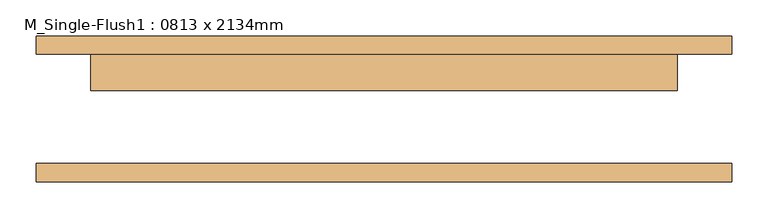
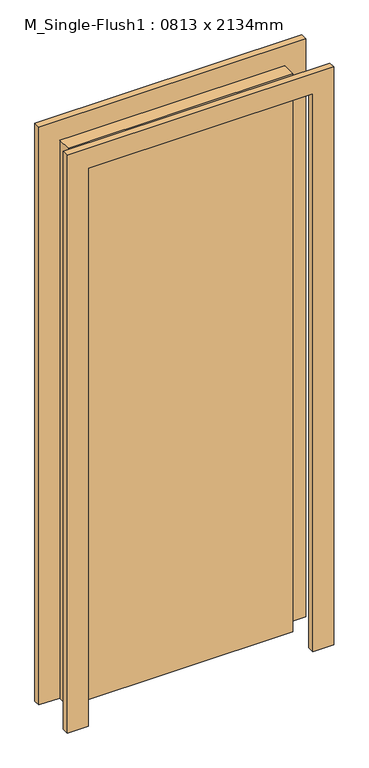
"""IFC4 building model written with IfcOpenShell, lengths in millimetres: door geometry, M_Single-Flush1 : 0813 x 2134mm."""

import ifcopenshell
import ifcopenshell.guid

model = None  # the IFC model being written
_history = None  # IfcOwnerHistory: only IFC2X3 demands one
_inside = {}  # id of a spatial element -> (the spatial element, [elements in it])
_under = {}  # id of a project, library or spatial element -> (it, [spatial elements below it])
_declared = {}  # id of a project -> (the project, [libraries it declares])
_typed = {}  # id of a type object -> (the type object, [elements of that type])
_made_of = {}  # id of a material, layer set ... -> (it, [elements and type objects made of it])


def new_model(schema):
    """Start an empty IFC model of exactly this schema.

    Asked for "IFC4X3", IfcOpenShell would pick the latest addendum, in which some entities
    have other attributes; the version numbers below select the first issue.
    IFC2X3 requires an IfcOwnerHistory on every rooted entity: one is made here for all.
    """
    global model, _history
    if schema == "IFC4X3":
        model = ifcopenshell.file(schema_version=(4, 3, 0, 0))
    else:
        model = ifcopenshell.file(schema=schema)
    _inside.clear()
    _under.clear()
    _declared.clear()
    _typed.clear()
    _made_of.clear()
    _history = None
    if model.schema == "IFC2X3":
        org = make("IfcOrganization", Name="unknown")
        user = make(
            "IfcPersonAndOrganization",
            ThePerson=make("IfcPerson", FamilyName="unknown"),
            TheOrganization=org,
        )
        app = make(
            "IfcApplication",
            ApplicationDeveloper=org,
            Version="unknown",
            ApplicationFullName="unknown",
            ApplicationIdentifier="unknown",
        )
        _history = make(
            "IfcOwnerHistory",
            OwningUser=user,
            OwningApplication=app,
            ChangeAction="ADDED",
            CreationDate=0,
        )
    return model


def make(cls, **values):
    """One entity of the class cls with the attributes given. An attribute that is None is left unset."""
    return model.create_entity(
        cls, **{name: value for name, value in values.items() if value is not None}
    )


def rooted(cls, **values):
    """An entity with a GlobalId (a new one), such as an element, a storey or a relation."""
    return make(cls, GlobalId=ifcopenshell.guid.new(), OwnerHistory=_history, **values)


def si_unit(unit_type, name, prefix=None):
    """IfcSIUnit, for example si_unit("LENGTHUNIT", "METRE", prefix="MILLI")."""
    return make("IfcSIUnit", UnitType=unit_type, Prefix=prefix, Name=name)


def assignment(units):
    """IfcUnitAssignment: the units of a project."""
    return None if units is None else make("IfcUnitAssignment", Units=units)


def point(xyz):
    """IfcCartesianPoint."""
    return None if xyz is None else make("IfcCartesianPoint", Coordinates=xyz)


def direction(xyz):
    """IfcDirection."""
    return None if xyz is None else make("IfcDirection", DirectionRatios=xyz)


def frame(location, z_axis=None, x_axis=None):
    """IfcAxis2Placement3D, a coordinate frame: its origin and axes. An axis left out is left unset."""
    return make(
        "IfcAxis2Placement3D",
        Location=point(location),
        Axis=direction(z_axis),
        RefDirection=direction(x_axis),
    )


def origin():
    """The frame at (0, 0, 0) with its axes left unset."""
    return frame((0.0, 0.0, 0.0))


def origin_with_axes():
    """The frame at (0, 0, 0) with the z axis (0, 0, 1) and the x axis (1, 0, 0) written out."""
    return frame((0.0, 0.0, 0.0), z_axis=(0.0, 0.0, 1.0), x_axis=(1.0, 0.0, 0.0))


def place(relative_to, where):
    """IfcLocalPlacement: puts the frame where relative to a parent placement (None: the world)."""
    return make(
        "IfcLocalPlacement", PlacementRelTo=relative_to, RelativePlacement=where
    )


def context(
    kind, dimensions, precision=None, world=None, true_north=None, identifier=None
):
    """IfcGeometricRepresentationContext, for example the 3D "Model" context."""
    return make(
        "IfcGeometricRepresentationContext",
        ContextIdentifier=identifier,
        ContextType=kind,
        CoordinateSpaceDimension=dimensions,
        Precision=precision,
        WorldCoordinateSystem=world,
        TrueNorth=true_north,
    )


def project(units=None, contexts=None):
    """IfcProject with its units and contexts."""
    return rooted(
        "IfcProject",
        Name="project",
        RepresentationContexts=contexts,
        UnitsInContext=assignment(units),
    )


def spatial(cls, under=None, at=None, **own):
    """A site, building, storey or space (cls), placed at a placement, below another one or the project."""
    s = rooted(cls, ObjectPlacement=at, **own)
    if under is not None:
        _under.setdefault(under.id(), (under, []))[1].append(s)
    return s


def polyline(points):
    """IfcPolyline through the points."""
    return make("IfcPolyline", Points=[point(p) for p in points])


def outline(outer, holes=None, kind="AREA"):
    """IfcArbitraryClosedProfileDef: a profile drawn as a closed curve; with holes, ...WithVoids."""
    if holes is None:
        return make("IfcArbitraryClosedProfileDef", ProfileType=kind, OuterCurve=outer)
    return make(
        "IfcArbitraryProfileDefWithVoids",
        ProfileType=kind,
        OuterCurve=outer,
        InnerCurves=holes,
    )


def extrude(swept, where, along, depth):
    """IfcExtrudedAreaSolid: the profile swept, set in the frame where, extruded along a direction by depth."""
    return make(
        "IfcExtrudedAreaSolid",
        SweptArea=swept,
        Position=where,
        ExtrudedDirection=direction(along),
        Depth=depth,
    )


def shape(context_of_items, identifier, shape_type, items):
    """IfcShapeRepresentation: the items that make up one representation, for example the "Body"."""
    return make(
        "IfcShapeRepresentation",
        ContextOfItems=context_of_items,
        RepresentationIdentifier=identifier,
        RepresentationType=shape_type,
        Items=items,
    )


def source(mapping_origin, context_of_items, identifier, shape_type, items):
    """IfcRepresentationMap: a shape defined once, which mapped items show again and again."""
    return make(
        "IfcRepresentationMap",
        MappingOrigin=mapping_origin,
        MappedRepresentation=shape(context_of_items, identifier, shape_type, items),
    )


def transform(
    local_origin,
    x_axis=None,
    y_axis=None,
    z_axis=None,
    scale=None,
    scale2=None,
    scale3=None,
    uniform=True,
):
    """IfcCartesianTransformationOperator3D, or its non-uniform kind. x_axis, y_axis, z_axis: its Axis1, 2, 3."""
    if uniform:
        return make(
            "IfcCartesianTransformationOperator3D",
            Axis1=direction(x_axis),
            Axis2=direction(y_axis),
            LocalOrigin=point(local_origin),
            Scale=scale,
            Axis3=direction(z_axis),
        )
    return make(
        "IfcCartesianTransformationOperator3DnonUniform",
        Axis1=direction(x_axis),
        Axis2=direction(y_axis),
        LocalOrigin=point(local_origin),
        Scale=scale,
        Axis3=direction(z_axis),
        Scale2=scale2,
        Scale3=scale3,
    )


def mapped(mapping_source, mapping_target):
    """IfcMappedItem: shows the shape of a source again, moved by a transform."""
    return make(
        "IfcMappedItem", MappingSource=mapping_source, MappingTarget=mapping_target
    )


def made_of(thing, what):
    """Note that an element or type object is made of a material, layer set ...; save() writes the relation."""
    if what is not None:
        _made_of.setdefault(what.id(), (what, []))[1].append(thing)
    return thing


def element(
    cls,
    number,
    at=None,
    inside=None,
    cuts=None,
    type_object=None,
    material=None,
    context=None,
    identifier="Body",
    shape_type=None,
    held_by="IfcProductDefinitionShape",
    body=None,
    shapes=None,
    **own,
):
    """One element of the class cls, such as IfcWall. Its Tag is "e" and its number.

    at: its placement. inside: the storey or other place that contains it. cuts: it is an
    opening in that element (IfcRelVoidsElement). A single representation is given by context,
    identifier, shape_type and body (its items); several are given by shapes. held_by: the class
    of the entity that holds the representations. save() writes the other relations.
    """
    e = rooted(cls, Tag="e%d" % number, ObjectPlacement=at, **own)
    if body is not None:
        shapes = [shape(context, identifier, shape_type, body)]
    if shapes is not None:
        e.Representation = make(held_by, Representations=shapes)
    if inside is not None:
        _inside.setdefault(inside.id(), (inside, []))[1].append(e)
    if cuts is not None:
        rooted(
            "IfcRelVoidsElement", RelatingBuildingElement=cuts, RelatedOpeningElement=e
        )
    if type_object is not None:
        _typed.setdefault(type_object.id(), (type_object, []))[1].append(e)
    return made_of(e, material)


def aggregate(whole, parts):
    """IfcRelAggregates: a whole, such as a stair, and the parts it consists of."""
    return rooted("IfcRelAggregates", RelatingObject=whole, RelatedObjects=parts)


def save(model, path):
    """Write the relations noted so far, then the file.

    IfcRelAggregates (storeys below a building ...), IfcRelContainedInSpatialStructure (elements
    in a storey), IfcRelDefinesByType, IfcRelAssociatesMaterial and IfcRelDeclares: one each for
    every whole, place, type object, material and project.
    """
    for whole, parts in _under.values():
        aggregate(whole, parts)
    for where, things in _inside.values():
        rooted(
            "IfcRelContainedInSpatialStructure",
            RelatedElements=things,
            RelatingStructure=where,
        )
    for kind, things in _typed.values():
        rooted("IfcRelDefinesByType", RelatedObjects=things, RelatingType=kind)
    for what, things in _made_of.values():
        rooted("IfcRelAssociatesMaterial", RelatedObjects=things, RelatingMaterial=what)
    for by, libraries in _declared.values():
        rooted("IfcRelDeclares", RelatingContext=by, RelatedDefinitions=libraries)
    model.write(path)


def m_single_flush1_0813_x_2134mm_5dcb0bd6(model_context):
    return source(origin(), model_context, "Body", "SweptSolid", [
        extrude(outline(polyline([(2210.0, -482.5), (0.0, -482.5), (0.0, -406.5), (2134.0, -406.5), (2134.0, 406.5), (0.0, 406.5), (0.0, 482.5), (2210.0, 482.5), (2210.0, -482.5)])), frame((0.0, 76.2, 0.0), z_axis=(0.0, 1.0, 0.0), x_axis=(0.0, 0.0, 1.0)), (0.0, 0.0, 1.0), 25.0),
        extrude(outline(polyline([(2210.0, 482.5), (2210.0, -482.5), (0.0, -482.5), (0.0, -406.5), (2134.0, -406.5), (2134.0, 406.5), (0.0, 406.5), (0.0, 482.5), (2210.0, 482.5)])), frame((0.0, -101.2, 0.0), z_axis=(0.0, 1.0, 0.0), x_axis=(0.0, 0.0, 1.0)), (0.0, 0.0, 1.0), 25.0),
        extrude(outline(polyline([(406.5, 25.2), (-406.5, 25.2), (-406.5, 76.2), (406.5, 76.2), (406.5, 25.2)])), origin_with_axes(), (0.0, 0.0, 1.0), 2134.0),
    ])


if __name__ == "__main__":
    model = new_model("IFC4")
    model_context = context("Model", 3, world=origin())
    ifc_project = project(units=[si_unit("LENGTHUNIT", "METRE", prefix="MILLI")], contexts=[model_context])
    site = spatial("IfcSite", under=ifc_project)
    building = spatial("IfcBuilding", under=site)
    placement = place(None, origin())
    m_single_flush1_0813_x_2134mm_shape = m_single_flush1_0813_x_2134mm_5dcb0bd6(model_context)
    element("IfcDoor", 1, ObjectType="M_Single-Flush1 : 0813 x 2134mm", at=placement, inside=building, context=model_context, shape_type="MappedRepresentation", body=[
        mapped(m_single_flush1_0813_x_2134mm_shape, transform((0.0, 0.0, 0.0), x_axis=(1.0, 0.0, 0.0), y_axis=(0.0, 1.0, 0.0), z_axis=(0.0, 0.0, 1.0))),
    ])
    save(model, "model.ifc")
